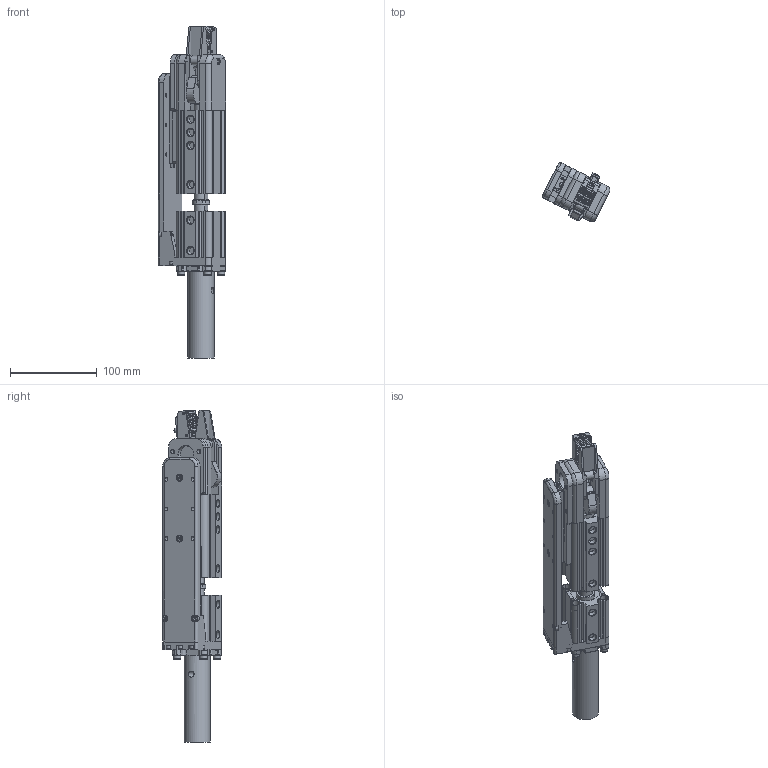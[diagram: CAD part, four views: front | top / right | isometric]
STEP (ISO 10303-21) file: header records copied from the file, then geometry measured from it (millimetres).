
FILE_DESCRIPTION(/* description */ (''),/* implementation_level */ '2;1');
FILE_NAME(/* name */ '8Y00416-GRP32B-3020CP--30.stp',/* time_stamp */ '2023-02-22T14:25:48+08:00',/* author */ (''),/* organization */ (''),/* preprocessor_version */ 'ST-DEVELOPER v16',/* originating_system */ 'SIEMENS PLM Software NX 10.0',/* authorisation */ '');
FILE_SCHEMA (('AUTOMOTIVE_DESIGN { 1 0 10303 214 3 1 1 1 }'));
Products named in the file (1): _model46
Bounding box: 77.89 x 68.82 x 381.81 mm (x, y, z)
Volume: 509839.6 mm3; surface area: 196681.1 mm2
Topology: 18 solids, 41 shells, 2716 faces, 5705 edges, 3122 vertices
Faces by surface type: plane 2115, cylinder 388, cone 163, torus 30, sphere 14, bspline 6
Full cylindrical faces by diameter (mm): 2.5 x4, 3 x5, 3.1 x1, 3.3 x6, 3.4 x2, 4 x12, 4.1 x1, 4.2 x16, 4.5 x9, 4.917 x8, 5 x9, 5.2 x12, 5.5 x9, 6 x11, 6.5 x1, 6.647 x3, 6.8 x1, 7 x14, 8 x10, 8.1 x1, 8.5 x9, 8.566 x6, 8.6 x1, 9 x16, 10 x5, 13 x2, 13.5 x1, 14 x1, 15 x2, 16 x4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
Entity records: 86989 total; most frequent: CARTESIAN_POINT 12851, DIRECTION 11584, ORIENTED_EDGE 10280, EDGE_CURVE 5140, LINE 3896, VECTOR 3896, AXIS2_PLACEMENT_3D 3844, EDGE_LOOP 3265
